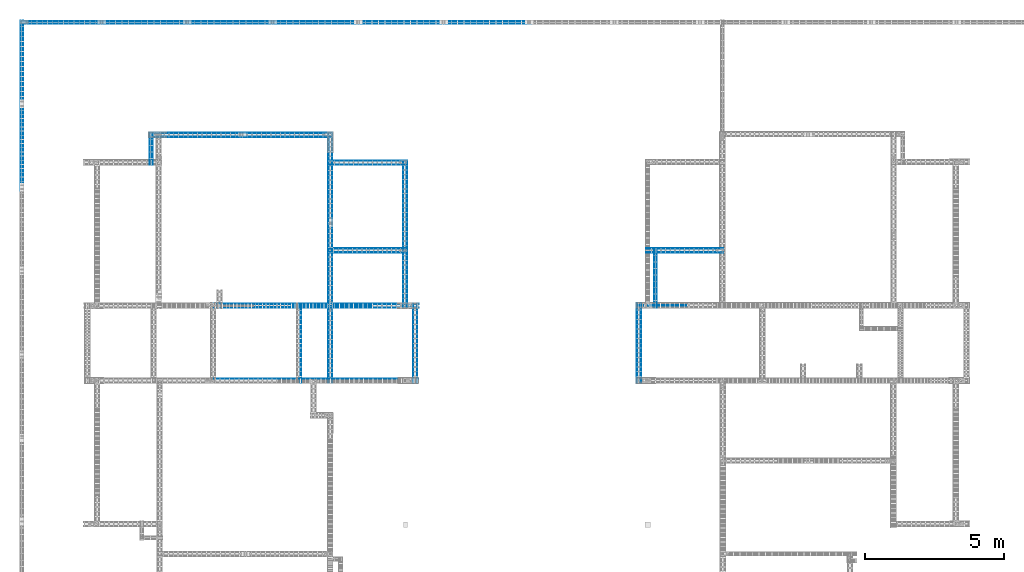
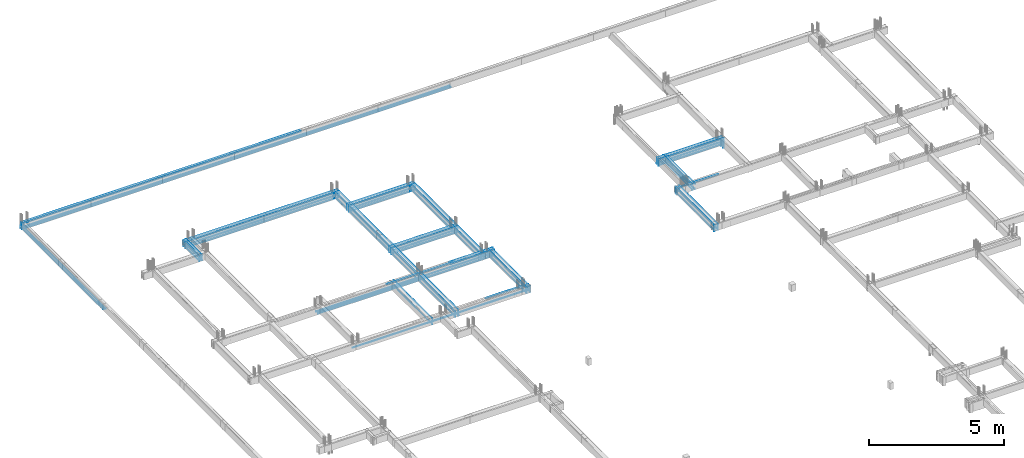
# One storey, part 14 of 150: 60 reinforcing bars.
"""IFC4 building model written with IfcOpenShell, lengths in centimetres."""

from ifc_helpers import new_model, entity, si_unit, derived_unit, frame, origin_with_axes, place, context, project, spatial, element, save


model = new_model("IFC4")

# Units and contexts
model_context = context("Model", 3, precision=1e-05, world=origin_with_axes(), identifier="Body")
ifc_project = project(units=[si_unit("LENGTHUNIT", "METRE", prefix="CENTI"), si_unit("VOLUMEUNIT", "CUBIC_METRE"), si_unit("AREAUNIT", "SQUARE_METRE"), si_unit("POWERUNIT", "WATT"), si_unit("LUMINOUSFLUXUNIT", "LUMEN"), si_unit("ELECTRICCURRENTUNIT", "AMPERE"), si_unit("PRESSUREUNIT", "PASCAL", prefix="KILO"), si_unit("MASSUNIT", "GRAM", prefix="KILO"), si_unit("PLANEANGLEUNIT", "RADIAN"), derived_unit("VOLUMETRICFLOWRATEUNIT", [(si_unit("LENGTHUNIT", "METRE"), 3), (si_unit("TIMEUNIT", "SECOND"), -1)])], contexts=[model_context])

# Site, building, storey
site_placement = place(None, frame((-4000.0, 0.0, 0.0), z_axis=(0.0, 0.0, 1.0), x_axis=(1.0, 0.0, 0.0)))
site = spatial("IfcSite", under=ifc_project, at=site_placement, Name="PADRÃO")
building_placement = place(site_placement, frame((0.0, 0.0, -14.0)))
building = spatial("IfcBuilding", under=site, at=building_placement, Name="CRECHE PRÉ-ESCOLA TIPO 2")
placement = place(building_placement, origin_with_axes())
storey_placement = place(placement, frame((0.0, 0.0, 30.0), z_axis=(0.0, 0.0, 1.0), x_axis=(1.0, 0.0, 0.0)))
storey = spatial("IfcBuildingStorey", under=building, at=storey_placement, Name="VIGA BALDRAME", CompositionType="ELEMENT", Elevation=16.0)

# Reinforcing bars
reinforcing_bar_1_placement = place(storey_placement, frame((1369.5, 4481.9, -26.7), z_axis=(0.0, 0.0, 1.0), x_axis=(1.0, 0.0, 0.0)))
element("IfcReinforcingBar", 1, at=reinforcing_bar_1_placement, inside=storey, Name="V101 - Longitudinal inferior", BarLength=0.0, CrossSectionArea=5.0265482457e-05, NominalDiameter=0.8, PredefinedType="MAIN", context=model_context, shape_type="AdvancedSweptSolid", body=[
    entity("IfcSweptDiskSolid", entity("IfcCompositeCurve", [entity("IfcCompositeCurveSegment", "CONTINUOUS", True, entity("IfcPolyline", [entity("IfcCartesianPoint", [-465.5, 0.0, -0.4]), entity("IfcCartesianPoint", [465.5, 0.0, -0.4])]))], False), 0.4),
])
for number, where, z_axis, x_axis, name in (
    (2, (458.75, 4491.1, -26.7), (0.0, 0.0, 1.0), (1.0, 0.0, 0.0), "V101 - Longitudinal inferior"),
    (3, (458.75, 4481.9, -26.7), (0.0, 0.0, 1.0), (1.0, 0.0, 0.0), "V101 - Longitudinal inferior"),
):
    element("IfcReinforcingBar", number, at=place(storey_placement, frame(where, z_axis=z_axis, x_axis=x_axis)), inside=storey, Name=name, BarLength=0.0, CrossSectionArea=5.0265482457e-05, NominalDiameter=0.8, PredefinedType="MAIN", context=model_context, shape_type="AdvancedSweptSolid", body=[
        entity("IfcSweptDiskSolid", entity("IfcCompositeCurve", [entity("IfcCompositeCurveSegment", "CONTINUOUS", True, entity("IfcPolyline", [entity("IfcCartesianPoint", [-455.25, 0.0, -0.4]), entity("IfcCartesianPoint", [455.25, 0.0, -0.4])]))], False), 0.4),
    ])
reinforcing_bar_2_placement = place(storey_placement, frame((1369.5, 4491.1, -26.7), z_axis=(0.0, 0.0, 1.0), x_axis=(1.0, 0.0, 0.0)))
element("IfcReinforcingBar", 4, at=reinforcing_bar_2_placement, inside=storey, Name="V101 - Longitudinal inferior", BarLength=0.0, CrossSectionArea=5.0265482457e-05, NominalDiameter=0.8, PredefinedType="MAIN", context=model_context, shape_type="AdvancedSweptSolid", body=[
    entity("IfcSweptDiskSolid", entity("IfcCompositeCurve", [entity("IfcCompositeCurveSegment", "CONTINUOUS", True, entity("IfcPolyline", [entity("IfcCartesianPoint", [-465.5, 0.0, -0.4]), entity("IfcCartesianPoint", [465.5, 0.0, -0.4])]))], False), 0.4),
])
for number, where, z_axis, x_axis, name in (
    (5, (598.4981248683, 4481.9, -2.49624973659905), (0.0, 0.0, 1.0), (1.0, 0.0, 0.0), "V101 - Longitudinal superior"),
    (6, (598.4981248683, 4491.1, -2.49624973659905), (0.0, 0.0, 1.0), (1.0, 0.0, 0.0), "V101 - Longitudinal superior"),
):
    element("IfcReinforcingBar", number, at=place(storey_placement, frame(where, z_axis=z_axis, x_axis=x_axis)), inside=storey, Name=name, BarLength=0.0, CrossSectionArea=5.0265482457e-05, NominalDiameter=0.8, PredefinedType="MAIN", context=model_context, shape_type="AdvancedSweptSolid", body=[
        entity("IfcSweptDiskSolid", entity("IfcCompositeCurve", [entity("IfcCompositeCurveSegment", "CONTINUOUS", True, entity("IfcPolyline", [entity("IfcCartesianPoint", [-594.5981248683, 0.0, -10.403750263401]), entity("IfcCartesianPoint", [-594.5981248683, 0.0, -0.403750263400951])])), entity("IfcCompositeCurveSegment", "CONTINUOUS", True, entity("IfcPolyline", [entity("IfcCartesianPoint", [-594.5981248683, 0.0, -0.403750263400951]), entity("IfcCartesianPoint", [595.0018751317, 0.0, -0.403750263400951])]))], False), 0.4),
    ])
for number, where, z_axis, x_axis, name in (
    (7, (795.0181248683, 4089.59, -3.2095935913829), (0.0, 0.0, 1.0), (1.0, 0.0, 0.0), "V102 - Longitudinal inferior"),
    (8, (795.0181248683, 4075.39, -3.2095935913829), (0.0, 0.0, 1.0), (1.0, 0.0, 0.0), "V102 - Longitudinal inferior"),
):
    element("IfcReinforcingBar", number, at=place(storey_placement, frame(where, z_axis=z_axis, x_axis=x_axis)), inside=storey, Name=name, BarLength=0.0, CrossSectionArea=5.0265482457e-05, NominalDiameter=0.8, PredefinedType="MAIN", context=model_context, shape_type="AdvancedSweptSolid", body=[
        entity("IfcSweptDiskSolid", entity("IfcCompositeCurve", [entity("IfcCompositeCurveSegment", "CONTINUOUS", True, entity("IfcPolyline", [entity("IfcCartesianPoint", [-327.6181248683, 0.0, 0.0]), entity("IfcCartesianPoint", [-327.6181248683, 0.0, -23.8904064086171])])), entity("IfcCompositeCurveSegment", "CONTINUOUS", True, entity("IfcPolyline", [entity("IfcCartesianPoint", [-327.6181248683, 0.0, -23.8904064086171]), entity("IfcCartesianPoint", [328.0218751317, 0.0, -23.8904064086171])]))], False), 0.4),
    ])
for number, where, z_axis, x_axis, name in (
    (9, (795.02, 4089.49, -2.49531217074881), (0.0, 0.0, 1.0), (1.0, 0.0, 0.0), "V102 - Longitudinal superior"),
    (10, (795.02, 4075.49, -2.49531217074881), (0.0, 0.0, 1.0), (1.0, 0.0, 0.0), "V102 - Longitudinal superior"),
):
    element("IfcReinforcingBar", number, at=place(storey_placement, frame(where, z_axis=z_axis, x_axis=x_axis)), inside=storey, Name=name, BarLength=0.0, CrossSectionArea=7.853981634e-05, NominalDiameter=1.0, PredefinedType="MAIN", context=model_context, shape_type="AdvancedSweptSolid", body=[
        entity("IfcSweptDiskSolid", entity("IfcCompositeCurve", [entity("IfcCompositeCurveSegment", "CONTINUOUS", True, entity("IfcPolyline", [entity("IfcCartesianPoint", [-327.52, 0.0, -26.5046878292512]), entity("IfcCartesianPoint", [-327.52, 0.0, -0.504687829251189])])), entity("IfcCompositeCurveSegment", "CONTINUOUS", True, entity("IfcPolyline", [entity("IfcCartesianPoint", [-327.52, 0.0, -0.504687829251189]), entity("IfcCartesianPoint", [327.52, 0.0, -0.504687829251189])])), entity("IfcCompositeCurveSegment", "CONTINUOUS", True, entity("IfcPolyline", [entity("IfcCartesianPoint", [327.52, 0.0, -0.504687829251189]), entity("IfcCartesianPoint", [327.52, 0.0, -10.5046878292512])]))], False), 0.5),
    ])
for number, where, z_axis, x_axis, name in (
    (11, (1248.92, 3989.6, -26.7), (0.0, 0.0, 1.0), (1.0, 0.0, 0.0), "V105 - Longitudinal inferior"),
    (12, (1248.92, 3975.4, -26.7), (0.0, 0.0, 1.0), (1.0, 0.0, 0.0), "V105 - Longitudinal inferior"),
):
    element("IfcReinforcingBar", number, at=place(storey_placement, frame(where, z_axis=z_axis, x_axis=x_axis)), inside=storey, Name=name, BarLength=0.0, CrossSectionArea=5.0265482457e-05, NominalDiameter=0.8, PredefinedType="MAIN", context=model_context, shape_type="AdvancedSweptSolid", body=[
        entity("IfcSweptDiskSolid", entity("IfcCompositeCurve", [entity("IfcCompositeCurveSegment", "CONTINUOUS", True, entity("IfcPolyline", [entity("IfcCartesianPoint", [-140.92, 0.0, -0.4]), entity("IfcCartesianPoint", [140.92, 0.0, -0.4])]))], False), 0.4),
    ])
for number, where, z_axis, x_axis, name in (
    (13, (1248.92, 3989.6, -2.49624973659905), (0.0, 0.0, 1.0), (1.0, 0.0, 0.0), "V105 - Longitudinal superior"),
    (14, (1248.92, 3975.4, -2.49624973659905), (0.0, 0.0, 1.0), (1.0, 0.0, 0.0), "V105 - Longitudinal superior"),
):
    element("IfcReinforcingBar", number, at=place(storey_placement, frame(where, z_axis=z_axis, x_axis=x_axis)), inside=storey, Name=name, BarLength=0.0, CrossSectionArea=5.0265482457e-05, NominalDiameter=0.8, PredefinedType="MAIN", context=model_context, shape_type="AdvancedSweptSolid", body=[
        entity("IfcSweptDiskSolid", entity("IfcCompositeCurve", [entity("IfcCompositeCurveSegment", "CONTINUOUS", True, entity("IfcPolyline", [entity("IfcCartesianPoint", [-140.52, 0.0, -26.403750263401]), entity("IfcCartesianPoint", [-140.52, 0.0, -0.403750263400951])])), entity("IfcCompositeCurveSegment", "CONTINUOUS", True, entity("IfcPolyline", [entity("IfcCartesianPoint", [-140.52, 0.0, -0.403750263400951]), entity("IfcCartesianPoint", [140.52, 0.0, -0.403750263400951])])), entity("IfcCompositeCurveSegment", "CONTINUOUS", True, entity("IfcPolyline", [entity("IfcCartesianPoint", [140.52, 0.0, -0.403750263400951]), entity("IfcCartesianPoint", [140.52, 0.0, -10.403750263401])]))], False), 0.4),
    ])
for number, where, z_axis, x_axis, name in (
    (15, (1248.92, 3660.47, -26.7), (0.0, 0.0, 1.0), (1.0, 0.0, 0.0), "V108 - Longitudinal inferior"),
    (16, (1248.92, 3674.67, -26.7), (0.0, 0.0, 1.0), (1.0, 0.0, 0.0), "V108 - Longitudinal inferior"),
):
    element("IfcReinforcingBar", number, at=place(storey_placement, frame(where, z_axis=z_axis, x_axis=x_axis)), inside=storey, Name=name, BarLength=0.0, CrossSectionArea=5.0265482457e-05, NominalDiameter=0.8, PredefinedType="MAIN", context=model_context, shape_type="AdvancedSweptSolid", body=[
        entity("IfcSweptDiskSolid", entity("IfcCompositeCurve", [entity("IfcCompositeCurveSegment", "CONTINUOUS", True, entity("IfcPolyline", [entity("IfcCartesianPoint", [-140.92, 0.0, -0.4]), entity("IfcCartesianPoint", [140.92, 0.0, -0.4])]))], False), 0.4),
    ])
for number, where, z_axis, x_axis, name in (
    (17, (1248.92, 3674.67, -2.49624973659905), (0.0, 0.0, 1.0), (1.0, 0.0, 0.0), "V108 - Longitudinal superior"),
    (18, (1248.92, 3660.47, -2.49624973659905), (0.0, 0.0, 1.0), (1.0, 0.0, 0.0), "V108 - Longitudinal superior"),
):
    element("IfcReinforcingBar", number, at=place(storey_placement, frame(where, z_axis=z_axis, x_axis=x_axis)), inside=storey, Name=name, BarLength=0.0, CrossSectionArea=5.0265482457e-05, NominalDiameter=0.8, PredefinedType="MAIN", context=model_context, shape_type="AdvancedSweptSolid", body=[
        entity("IfcSweptDiskSolid", entity("IfcCompositeCurve", [entity("IfcCompositeCurveSegment", "CONTINUOUS", True, entity("IfcPolyline", [entity("IfcCartesianPoint", [-140.52, 0.0, -26.403750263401]), entity("IfcCartesianPoint", [-140.52, 0.0, -0.403750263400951])])), entity("IfcCompositeCurveSegment", "CONTINUOUS", True, entity("IfcPolyline", [entity("IfcCartesianPoint", [-140.52, 0.0, -0.403750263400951]), entity("IfcCartesianPoint", [140.52, 0.0, -0.403750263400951])])), entity("IfcCompositeCurveSegment", "CONTINUOUS", True, entity("IfcPolyline", [entity("IfcCartesianPoint", [140.52, 0.0, -0.403750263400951]), entity("IfcCartesianPoint", [140.52, 0.0, -10.403750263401])]))], False), 0.4),
    ])
for number, where, z_axis, x_axis, name in (
    (19, (2389.12911844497, 3674.83982156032, -26.7), (0.0, 0.0, 1.0), (1.0, 0.0, 0.0), "V109 - Longitudinal inferior"),
    (20, (2389.1308073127, 3660.63982166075, -26.7), (0.0, 0.0, 1.0), (1.0, 0.0, 0.0), "V109 - Longitudinal inferior"),
):
    element("IfcReinforcingBar", number, at=place(storey_placement, frame(where, z_axis=z_axis, x_axis=x_axis)), inside=storey, Name=name, BarLength=0.0, CrossSectionArea=5.0265482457e-05, NominalDiameter=0.8, PredefinedType="MAIN", context=model_context, shape_type="AdvancedSweptSolid", body=[
        entity("IfcSweptDiskSolid", entity("IfcCompositeCurve", [entity("IfcCompositeCurveSegment", "CONTINUOUS", True, entity("IfcPolyline", [entity("IfcCartesianPoint", [-138.369971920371, -0.012760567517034, -0.4]), entity("IfcCartesianPoint", [138.370045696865, 0.01276056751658, -0.4])]))], False), 0.4),
    ])
for number, where, z_axis, x_axis, name in (
    (21, (2389.12918209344, 3674.61482156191, -2.49414021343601), (0.0, 0.0, 1.0), (1.0, 0.0, 0.0), "V109 - Longitudinal superior"),
    (22, (2389.13081744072, 3660.86482165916, -2.49414021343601), (0.0, 0.0, 1.0), (1.0, 0.0, 0.0), "V109 - Longitudinal superior"),
):
    element("IfcReinforcingBar", number, at=place(storey_placement, frame(where, z_axis=z_axis, x_axis=x_axis)), inside=storey, Name=name, BarLength=0.0, CrossSectionArea=0.000122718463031, NominalDiameter=1.25, PredefinedType="MAIN", context=model_context, shape_type="AdvancedSweptSolid", body=[
        entity("IfcSweptDiskSolid", entity("IfcCompositeCurve", [entity("IfcCompositeCurveSegment", "CONTINUOUS", True, entity("IfcPolyline", [entity("IfcCartesianPoint", [-137.745008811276, -0.012702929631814, -26.630859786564]), entity("IfcCartesianPoint", [-137.745008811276, -0.012702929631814, -0.630859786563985])])), entity("IfcCompositeCurveSegment", "CONTINUOUS", True, entity("IfcPolyline", [entity("IfcCartesianPoint", [-137.745008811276, -0.012702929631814, -0.630859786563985]), entity("IfcCartesianPoint", [137.745008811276, 0.012702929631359, -0.630859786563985])])), entity("IfcCompositeCurveSegment", "CONTINUOUS", True, entity("IfcPolyline", [entity("IfcCartesianPoint", [137.745008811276, 0.012702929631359, -0.630859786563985]), entity("IfcCartesianPoint", [137.745008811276, 0.012702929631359, -42.3274849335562])]))], False), 0.625),
    ])
for number, where, z_axis, x_axis, name in (
    (23, (905.86, 3462.3, -25.9), (0.0, 0.0, 1.0), (1.0, 0.0, 0.0), "V110 - Longitudinal inferior"),
    (24, (905.86, 3475.7, -25.9), (0.0, 0.0, 1.0), (1.0, 0.0, 0.0), "V110 - Longitudinal inferior"),
):
    element("IfcReinforcingBar", number, at=place(storey_placement, frame(where, z_axis=z_axis, x_axis=x_axis)), inside=storey, Name=name, BarLength=0.0, CrossSectionArea=0.00020106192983, NominalDiameter=1.6, PredefinedType="MAIN", context=model_context, shape_type="AdvancedSweptSolid", body=[
        entity("IfcSweptDiskSolid", entity("IfcCompositeCurve", [entity("IfcCompositeCurveSegment", "CONTINUOUS", True, entity("IfcPolyline", [entity("IfcCartesianPoint", [-225.86, 0.0, -0.8]), entity("IfcCartesianPoint", [225.86, 0.0, -0.8])]))], False), 0.8),
    ])
for number, where, z_axis, x_axis, name in (
    (25, (1267.3768751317, 3476.1, -3.2095935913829), (0.0, 0.0, 1.0), (1.0, 0.0, 0.0), "V110 - Longitudinal inferior"),
    (26, (1267.3768751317, 3461.9, -3.2095935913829), (0.0, 0.0, 1.0), (1.0, 0.0, 0.0), "V110 - Longitudinal inferior"),
):
    element("IfcReinforcingBar", number, at=place(storey_placement, frame(where, z_axis=z_axis, x_axis=x_axis)), inside=storey, Name=name, BarLength=0.0, CrossSectionArea=5.0265482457e-05, NominalDiameter=0.8, PredefinedType="MAIN", context=model_context, shape_type="AdvancedSweptSolid", body=[
        entity("IfcSweptDiskSolid", entity("IfcCompositeCurve", [entity("IfcCompositeCurveSegment", "CONTINUOUS", True, entity("IfcPolyline", [entity("IfcCartesianPoint", [-161.6568751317, 0.0, -23.8904064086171]), entity("IfcCartesianPoint", [161.253124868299, 0.0, -23.8904064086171])])), entity("IfcCompositeCurveSegment", "CONTINUOUS", True, entity("IfcPolyline", [entity("IfcCartesianPoint", [161.253124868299, 0.0, -23.8904064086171]), entity("IfcCartesianPoint", [161.253124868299, 0.0, 0.0])]))], False), 0.4),
    ])
for number, where, z_axis, x_axis, name in (
    (27, (1340.76292989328, 3475.875, -2.49414021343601), (0.0, 0.0, 1.0), (1.0, 0.0, 0.0), "V110 - Longitudinal superior"),
    (28, (1340.76292989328, 3462.125, -2.49414021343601), (0.0, 0.0, 1.0), (1.0, 0.0, 0.0), "V110 - Longitudinal superior"),
):
    element("IfcReinforcingBar", number, at=place(storey_placement, frame(where, z_axis=z_axis, x_axis=x_axis)), inside=storey, Name=name, BarLength=0.0, CrossSectionArea=0.000122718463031, NominalDiameter=1.25, PredefinedType="MAIN", context=model_context, shape_type="AdvancedSweptSolid", body=[
        entity("IfcSweptDiskSolid", entity("IfcCompositeCurve", [entity("IfcCompositeCurveSegment", "CONTINUOUS", True, entity("IfcPolyline", [entity("IfcCartesianPoint", [-92.0029298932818, 0.0, -0.630859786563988]), entity("IfcCartesianPoint", [91.372070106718, 0.0, -0.630859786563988])])), entity("IfcCompositeCurveSegment", "CONTINUOUS", True, entity("IfcPolyline", [entity("IfcCartesianPoint", [91.372070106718, 0.0, -0.630859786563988]), entity("IfcCartesianPoint", [91.372070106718, 0.0, -26.630859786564])]))], False), 0.625),
    ])
reinforcing_bar_3_placement = place(storey_placement, frame((1119.95, 3469.0, -2.5), z_axis=(0.0, 0.0, 1.0), x_axis=(1.0, 0.0, 0.0)))
element("IfcReinforcingBar", 29, at=reinforcing_bar_3_placement, inside=storey, Name="V110 - Longitudinal superior", BarLength=0.0, CrossSectionArea=0.000122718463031, NominalDiameter=1.25, PredefinedType="MAIN", context=model_context, shape_type="AdvancedSweptSolid", body=[
    entity("IfcSweptDiskSolid", entity("IfcCompositeCurve", [entity("IfcCompositeCurveSegment", "CONTINUOUS", True, entity("IfcPolyline", [entity("IfcCartesianPoint", [-142.5, 0.0, -0.625]), entity("IfcCartesianPoint", [142.5, 0.0, -0.625])]))], False), 0.625),
])
reinforcing_bar_4_placement = place(storey_placement, frame((2305.52707010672, 3470.02, -2.49414021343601), z_axis=(0.0, 0.0, 1.0), x_axis=(1.0, 0.0, 0.0)))
element("IfcReinforcingBar", 30, at=reinforcing_bar_4_placement, inside=storey, Name="V111 - Longitudinal superior", BarLength=0.0, CrossSectionArea=0.000122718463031, NominalDiameter=1.25, PredefinedType="MAIN", context=model_context, shape_type="AdvancedSweptSolid", body=[
    entity("IfcSweptDiskSolid", entity("IfcCompositeCurve", [entity("IfcCompositeCurveSegment", "CONTINUOUS", True, entity("IfcPolyline", [entity("IfcCartesianPoint", [-88.3720701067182, 0.0, -26.630859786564]), entity("IfcCartesianPoint", [-88.3720701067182, 0.0, -0.630859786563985])])), entity("IfcCompositeCurveSegment", "CONTINUOUS", True, entity("IfcPolyline", [entity("IfcCartesianPoint", [-88.3720701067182, 0.0, -0.630859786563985]), entity("IfcCartesianPoint", [89.0029298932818, 0.0, -0.630859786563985])]))], False), 0.625),
])
reinforcing_bar_5_placement = place(storey_placement, frame((1054.51734391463, 3207.02, -4.15402858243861), z_axis=(0.0, 0.0, 1.0), x_axis=(1.0, 0.0, 0.0)))
element("IfcReinforcingBar", 31, at=reinforcing_bar_5_placement, inside=storey, Name="V113 - Longitudinal inferior", BarLength=0.0, CrossSectionArea=7.853981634e-05, NominalDiameter=1.0, PredefinedType="MAIN", context=model_context, shape_type="AdvancedSweptSolid", body=[
    entity("IfcSweptDiskSolid", entity("IfcCompositeCurve", [entity("IfcCompositeCurveSegment", "CONTINUOUS", True, entity("IfcPolyline", [entity("IfcCartesianPoint", [-374.517343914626, 0.0, -22.8459714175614]), entity("IfcCartesianPoint", [374.012656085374, 0.0, -22.8459714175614])])), entity("IfcCompositeCurveSegment", "CONTINUOUS", True, entity("IfcPolyline", [entity("IfcCartesianPoint", [374.012656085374, 0.0, -22.8459714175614]), entity("IfcCartesianPoint", [374.012656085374, 0.0, 0.0])]))], False), 0.5),
])
reinforcing_bar_6_placement = place(storey_placement, frame((1339.27234391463, 3207.02, -2.49531217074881), z_axis=(0.0, 0.0, 1.0), x_axis=(1.0, 0.0, 0.0)))
element("IfcReinforcingBar", 32, at=reinforcing_bar_6_placement, inside=storey, Name="V113 - Longitudinal superior", BarLength=0.0, CrossSectionArea=7.853981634e-05, NominalDiameter=1.0, PredefinedType="MAIN", context=model_context, shape_type="AdvancedSweptSolid", body=[
    entity("IfcSweptDiskSolid", entity("IfcCompositeCurve", [entity("IfcCompositeCurveSegment", "CONTINUOUS", True, entity("IfcPolyline", [entity("IfcCartesianPoint", [-91.5023439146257, 0.0, -0.504687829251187]), entity("IfcCartesianPoint", [90.9976560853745, 0.0, -0.504687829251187])])), entity("IfcCompositeCurveSegment", "CONTINUOUS", True, entity("IfcPolyline", [entity("IfcCartesianPoint", [90.9976560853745, 0.0, -0.504687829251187]), entity("IfcCartesianPoint", [90.9976560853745, 0.0, -26.5046878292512])]))], False), 0.5),
])
for number, where, z_axis, x_axis, name in (
    (33, (4.4, 4188.15895508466, -17.1), (0.0, 0.0, 1.0), (1.0, 0.0, 0.0), "V159 - Longitudinal inferior"),
    (34, (13.6, 4188.15895508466, -17.1), (0.0, 0.0, 1.0), (1.0, 0.0, 0.0), "V159 - Longitudinal inferior"),
):
    element("IfcReinforcingBar", number, at=place(storey_placement, frame(where, z_axis=z_axis, x_axis=x_axis)), inside=storey, Name=name, BarLength=0.0, CrossSectionArea=5.0265482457e-05, NominalDiameter=0.8, PredefinedType="MAIN", context=model_context, shape_type="AdvancedSweptSolid", body=[
        entity("IfcSweptDiskSolid", entity("IfcCompositeCurve", [entity("IfcCompositeCurveSegment", "CONTINUOUS", True, entity("IfcPolyline", [entity("IfcCartesianPoint", [0.0, -305.344795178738, -10.0]), entity("IfcCartesianPoint", [0.0, 304.941044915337, -10.0])])), entity("IfcCompositeCurveSegment", "CONTINUOUS", True, entity("IfcPolyline", [entity("IfcCartesianPoint", [0.0, 304.941044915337, -10.0]), entity("IfcCartesianPoint", [0.0, 304.941044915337, 0.0])]))], False), 0.4),
    ])
for number, where, z_axis, x_axis, name in (
    (35, (467.9, 4033.12, -26.7), (0.0, 0.0, 1.0), (1.0, 0.0, 0.0), "V174 - Longitudinal inferior"),
    (36, (477.1, 4033.12, -26.7), (0.0, 0.0, 1.0), (1.0, 0.0, 0.0), "V174 - Longitudinal inferior"),
):
    element("IfcReinforcingBar", number, at=place(storey_placement, frame(where, z_axis=z_axis, x_axis=x_axis)), inside=storey, Name=name, BarLength=0.0, CrossSectionArea=5.0265482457e-05, NominalDiameter=0.8, PredefinedType="MAIN", context=model_context, shape_type="AdvancedSweptSolid", body=[
        entity("IfcSweptDiskSolid", entity("IfcCompositeCurve", [entity("IfcCompositeCurveSegment", "CONTINUOUS", True, entity("IfcPolyline", [entity("IfcCartesianPoint", [0.0, -57.37, -0.4]), entity("IfcCartesianPoint", [0.0, 57.37, -0.4])]))], False), 0.4),
    ])
for number, where, z_axis, x_axis, name in (
    (37, (467.9, 4033.12, -2.49624973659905), (0.0, 0.0, 1.0), (1.0, 0.0, 0.0), "V174 - Longitudinal superior"),
    (38, (477.1, 4033.12, -2.49624973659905), (0.0, 0.0, 1.0), (1.0, 0.0, 0.0), "V174 - Longitudinal superior"),
):
    element("IfcReinforcingBar", number, at=place(storey_placement, frame(where, z_axis=z_axis, x_axis=x_axis)), inside=storey, Name=name, BarLength=0.0, CrossSectionArea=5.0265482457e-05, NominalDiameter=0.8, PredefinedType="MAIN", context=model_context, shape_type="AdvancedSweptSolid", body=[
        entity("IfcSweptDiskSolid", entity("IfcCompositeCurve", [entity("IfcCompositeCurveSegment", "CONTINUOUS", True, entity("IfcPolyline", [entity("IfcCartesianPoint", [0.0, -56.97, -18.3215550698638]), entity("IfcCartesianPoint", [0.0, -56.97, -0.403750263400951])])), entity("IfcCompositeCurveSegment", "CONTINUOUS", True, entity("IfcPolyline", [entity("IfcCartesianPoint", [0.0, -56.97, -0.403750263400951]), entity("IfcCartesianPoint", [0.0, 56.97, -0.403750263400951])])), entity("IfcCompositeCurveSegment", "CONTINUOUS", True, entity("IfcPolyline", [entity("IfcCartesianPoint", [0.0, 56.97, -0.403750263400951]), entity("IfcCartesianPoint", [0.0, 56.97, -18.3215550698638])]))], False), 0.4),
    ])
reinforcing_bar_7_placement = place(storey_placement, frame((1010.98, 3334.51, -2.5), z_axis=(0.0, 0.0, 1.0), x_axis=(1.0, 0.0, 0.0)))
element("IfcReinforcingBar", 39, at=reinforcing_bar_7_placement, inside=storey, Name="V179 - Longitudinal construtiva", BarLength=0.0, CrossSectionArea=1.9634954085e-05, NominalDiameter=0.5, PredefinedType="MAIN", context=model_context, shape_type="AdvancedSweptSolid", body=[
    entity("IfcSweptDiskSolid", entity("IfcCompositeCurve", [entity("IfcCompositeCurveSegment", "CONTINUOUS", True, entity("IfcPolyline", [entity("IfcCartesianPoint", [0.0, -142.49, -0.25]), entity("IfcCartesianPoint", [0.0, 142.49, -0.25])]))], False), 0.25),
])
reinforcing_bar_8_placement = place(storey_placement, frame((1010.73, 3334.51, -26.5), z_axis=(0.0, 0.0, 1.0), x_axis=(1.0, 0.0, 0.0)))
element("IfcReinforcingBar", 40, at=reinforcing_bar_8_placement, inside=storey, Name="V179 - Longitudinal inferior", BarLength=0.0, CrossSectionArea=7.853981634e-05, NominalDiameter=1.0, PredefinedType="MAIN", context=model_context, shape_type="AdvancedSweptSolid", body=[
    entity("IfcSweptDiskSolid", entity("IfcCompositeCurve", [entity("IfcCompositeCurveSegment", "CONTINUOUS", True, entity("IfcPolyline", [entity("IfcCartesianPoint", [0.0, -142.49, -0.5]), entity("IfcCartesianPoint", [0.0, 142.49, -0.5])]))], False), 0.5),
])
for number, where, z_axis, x_axis, name in (
    (41, (1122.875, 3641.01292989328, -11.875), (0.0, 0.0, 1.0), (1.0, 0.0, 0.0), "V185 - Longitudinal inferior"),
    (42, (1109.125, 3641.01292989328, -11.875), (0.0, 0.0, 1.0), (1.0, 0.0, 0.0), "V185 - Longitudinal inferior"),
):
    element("IfcReinforcingBar", number, at=place(storey_placement, frame(where, z_axis=z_axis, x_axis=x_axis)), inside=storey, Name=name, BarLength=0.0, CrossSectionArea=0.000122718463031, NominalDiameter=1.25, PredefinedType="MAIN", context=model_context, shape_type="AdvancedSweptSolid", body=[
        entity("IfcSweptDiskSolid", entity("IfcCompositeCurve", [entity("IfcCompositeCurveSegment", "CONTINUOUS", True, entity("IfcPolyline", [entity("IfcCartesianPoint", [0.0, -448.992929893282, -15.0]), entity("IfcCartesianPoint", [0.0, 448.362070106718, -15.0])])), entity("IfcCompositeCurveSegment", "CONTINUOUS", True, entity("IfcPolyline", [entity("IfcCartesianPoint", [0.0, 448.362070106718, -15.0]), entity("IfcCartesianPoint", [0.0, 448.362070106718, 0.0])]))], False), 0.625),
    ])
for number, where, z_axis, x_axis, name in (
    (43, (1109.0, 3641.01, -2.49531217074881), (0.0, 0.0, 1.0), (1.0, 0.0, 0.0), "V185 - Longitudinal superior"),
    (44, (1123.0, 3641.01, -2.49531217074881), (0.0, 0.0, 1.0), (1.0, 0.0, 0.0), "V185 - Longitudinal superior"),
):
    element("IfcReinforcingBar", number, at=place(storey_placement, frame(where, z_axis=z_axis, x_axis=x_axis)), inside=storey, Name=name, BarLength=0.0, CrossSectionArea=7.853981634e-05, NominalDiameter=1.0, PredefinedType="MAIN", context=model_context, shape_type="AdvancedSweptSolid", body=[
        entity("IfcSweptDiskSolid", entity("IfcCompositeCurve", [entity("IfcCompositeCurveSegment", "CONTINUOUS", True, entity("IfcPolyline", [entity("IfcCartesianPoint", [0.0, -448.49, -26.5046878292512]), entity("IfcCartesianPoint", [0.0, -448.49, -0.504687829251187])])), entity("IfcCompositeCurveSegment", "CONTINUOUS", True, entity("IfcPolyline", [entity("IfcCartesianPoint", [0.0, -448.49, -0.504687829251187]), entity("IfcCartesianPoint", [0.0, 448.49, -0.504687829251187])])), entity("IfcCompositeCurveSegment", "CONTINUOUS", True, entity("IfcPolyline", [entity("IfcCartesianPoint", [0.0, 448.49, -0.504687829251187]), entity("IfcCartesianPoint", [0.0, 448.49, -19.6170129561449])]))], False), 0.5),
    ])
for number, where, z_axis, x_axis, name in (
    (45, (1428.03, 3334.51, -26.5), (0.0, 0.0, 1.0), (1.0, 0.0, 0.0), "V187 - Longitudinal inferior"),
    (46, (1414.03, 3334.51, -26.5), (0.0, 0.0, 1.0), (1.0, 0.0, 0.0), "V187 - Longitudinal inferior"),
):
    element("IfcReinforcingBar", number, at=place(storey_placement, frame(where, z_axis=z_axis, x_axis=x_axis)), inside=storey, Name=name, BarLength=0.0, CrossSectionArea=7.853981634e-05, NominalDiameter=1.0, PredefinedType="MAIN", context=model_context, shape_type="AdvancedSweptSolid", body=[
        entity("IfcSweptDiskSolid", entity("IfcCompositeCurve", [entity("IfcCompositeCurveSegment", "CONTINUOUS", True, entity("IfcPolyline", [entity("IfcCartesianPoint", [0.0, -142.49, -0.5]), entity("IfcCartesianPoint", [0.0, 142.49, -0.5])]))], False), 0.5),
    ])
for number, where, z_axis, x_axis, name in (
    (47, (1428.13, 3334.51, -2.49624973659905), (0.0, 0.0, 1.0), (1.0, 0.0, 0.0), "V187 - Longitudinal superior"),
    (48, (1413.93, 3334.51, -2.49624973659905), (0.0, 0.0, 1.0), (1.0, 0.0, 0.0), "V187 - Longitudinal superior"),
):
    element("IfcReinforcingBar", number, at=place(storey_placement, frame(where, z_axis=z_axis, x_axis=x_axis)), inside=storey, Name=name, BarLength=0.0, CrossSectionArea=5.0265482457e-05, NominalDiameter=0.8, PredefinedType="MAIN", context=model_context, shape_type="AdvancedSweptSolid", body=[
        entity("IfcSweptDiskSolid", entity("IfcCompositeCurve", [entity("IfcCompositeCurveSegment", "CONTINUOUS", True, entity("IfcPolyline", [entity("IfcCartesianPoint", [0.0, -142.09, -24.2941566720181]), entity("IfcCartesianPoint", [0.0, -142.09, -0.403750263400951])])), entity("IfcCompositeCurveSegment", "CONTINUOUS", True, entity("IfcPolyline", [entity("IfcCartesianPoint", [0.0, -142.09, -0.403750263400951]), entity("IfcCartesianPoint", [0.0, 142.09, -0.403750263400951])])), entity("IfcCompositeCurveSegment", "CONTINUOUS", True, entity("IfcPolyline", [entity("IfcCartesianPoint", [0.0, 142.09, -0.403750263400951]), entity("IfcCartesianPoint", [0.0, 142.09, -26.403750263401])]))], False), 0.4),
    ])
for number, where, z_axis, x_axis, name in (
    (49, (1391.49, 3726.75765608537, -15.0), (0.0, 0.0, 1.0), (1.0, 0.0, 0.0), "V188 - Longitudinal inferior"),
    (50, (1377.49, 3726.75765608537, -15.0), (0.0, 0.0, 1.0), (1.0, 0.0, 0.0), "V188 - Longitudinal inferior"),
):
    element("IfcReinforcingBar", number, at=place(storey_placement, frame(where, z_axis=z_axis, x_axis=x_axis)), inside=storey, Name=name, BarLength=0.0, CrossSectionArea=7.853981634e-05, NominalDiameter=1.0, PredefinedType="MAIN", context=model_context, shape_type="AdvancedSweptSolid", body=[
        entity("IfcSweptDiskSolid", entity("IfcCompositeCurve", [entity("IfcCompositeCurveSegment", "CONTINUOUS", True, entity("IfcPolyline", [entity("IfcCartesianPoint", [0.0, -262.737656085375, 0.0]), entity("IfcCartesianPoint", [0.0, -262.737656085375, -12.0])])), entity("IfcCompositeCurveSegment", "CONTINUOUS", True, entity("IfcPolyline", [entity("IfcCartesianPoint", [0.0, -262.737656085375, -12.0]), entity("IfcCartesianPoint", [0.0, 263.242343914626, -12.0])]))], False), 0.5),
    ])
for number, where, z_axis, x_axis, name in (
    (51, (1391.59, 3726.76, -2.49624973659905), (0.0, 0.0, 1.0), (1.0, 0.0, 0.0), "V188 - Longitudinal superior"),
    (52, (1377.39, 3726.76, -2.49624973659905), (0.0, 0.0, 1.0), (1.0, 0.0, 0.0), "V188 - Longitudinal superior"),
):
    element("IfcReinforcingBar", number, at=place(storey_placement, frame(where, z_axis=z_axis, x_axis=x_axis)), inside=storey, Name=name, BarLength=0.0, CrossSectionArea=5.0265482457e-05, NominalDiameter=0.8, PredefinedType="MAIN", context=model_context, shape_type="AdvancedSweptSolid", body=[
        entity("IfcSweptDiskSolid", entity("IfcCompositeCurve", [entity("IfcCompositeCurveSegment", "CONTINUOUS", True, entity("IfcPolyline", [entity("IfcCartesianPoint", [0.0, -262.84, -24.2941566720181]), entity("IfcCartesianPoint", [0.0, -262.84, -0.403750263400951])])), entity("IfcCompositeCurveSegment", "CONTINUOUS", True, entity("IfcPolyline", [entity("IfcCartesianPoint", [0.0, -262.84, -0.403750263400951]), entity("IfcCartesianPoint", [0.0, 262.84, -0.403750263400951])])), entity("IfcCompositeCurveSegment", "CONTINUOUS", True, entity("IfcPolyline", [entity("IfcCartesianPoint", [0.0, 262.84, -0.403750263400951]), entity("IfcCartesianPoint", [0.0, 262.84, -24.2941566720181])]))], False), 0.4),
    ])
for number, where, z_axis, x_axis, name in (
    (53, (2217.53, 3335.02, -26.5), (0.0, 0.0, 1.0), (1.0, 0.0, 0.0), "V191 - Longitudinal inferior"),
    (54, (2231.53, 3335.02, -26.5), (0.0, 0.0, 1.0), (1.0, 0.0, 0.0), "V191 - Longitudinal inferior"),
):
    element("IfcReinforcingBar", number, at=place(storey_placement, frame(where, z_axis=z_axis, x_axis=x_axis)), inside=storey, Name=name, BarLength=0.0, CrossSectionArea=7.853981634e-05, NominalDiameter=1.0, PredefinedType="MAIN", context=model_context, shape_type="AdvancedSweptSolid", body=[
        entity("IfcSweptDiskSolid", entity("IfcCompositeCurve", [entity("IfcCompositeCurveSegment", "CONTINUOUS", True, entity("IfcPolyline", [entity("IfcCartesianPoint", [0.0, -143.0, -0.5]), entity("IfcCartesianPoint", [0.0, 143.0, -0.5])]))], False), 0.5),
    ])
for number, where, z_axis, x_axis, name in (
    (55, (2217.43, 3335.02, -2.49624973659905), (0.0, 0.0, 1.0), (1.0, 0.0, 0.0), "V191 - Longitudinal superior"),
    (56, (2231.63, 3335.02, -2.49624973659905), (0.0, 0.0, 1.0), (1.0, 0.0, 0.0), "V191 - Longitudinal superior"),
):
    element("IfcReinforcingBar", number, at=place(storey_placement, frame(where, z_axis=z_axis, x_axis=x_axis)), inside=storey, Name=name, BarLength=0.0, CrossSectionArea=5.0265482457e-05, NominalDiameter=0.8, PredefinedType="MAIN", context=model_context, shape_type="AdvancedSweptSolid", body=[
        entity("IfcSweptDiskSolid", entity("IfcCompositeCurve", [entity("IfcCompositeCurveSegment", "CONTINUOUS", True, entity("IfcPolyline", [entity("IfcCartesianPoint", [0.0, -142.6, -26.403750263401]), entity("IfcCartesianPoint", [0.0, -142.6, -0.403750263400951])])), entity("IfcCompositeCurveSegment", "CONTINUOUS", True, entity("IfcPolyline", [entity("IfcCartesianPoint", [0.0, -142.6, -0.403750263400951]), entity("IfcCartesianPoint", [0.0, 142.6, -0.403750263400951])])), entity("IfcCompositeCurveSegment", "CONTINUOUS", True, entity("IfcPolyline", [entity("IfcCartesianPoint", [0.0, 142.6, -0.403750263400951]), entity("IfcCartesianPoint", [0.0, 142.6, -24.2941566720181])]))], False), 0.4),
    ])
for number, where, z_axis, x_axis, name in (
    (57, (2278.75, 3568.885, -2.5), (0.0, 0.0, 1.0), (1.0, 0.0, 0.0), "V192 - Longitudinal construtiva"),
    (58, (2288.25, 3568.885, -2.5), (0.0, 0.0, 1.0), (1.0, 0.0, 0.0), "V192 - Longitudinal construtiva"),
):
    element("IfcReinforcingBar", number, at=place(storey_placement, frame(where, z_axis=z_axis, x_axis=x_axis)), inside=storey, Name=name, BarLength=0.0, CrossSectionArea=1.9634954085e-05, NominalDiameter=0.5, PredefinedType="MAIN", context=model_context, shape_type="AdvancedSweptSolid", body=[
        entity("IfcSweptDiskSolid", entity("IfcCompositeCurve", [entity("IfcCompositeCurveSegment", "CONTINUOUS", True, entity("IfcPolyline", [entity("IfcCartesianPoint", [0.0, -106.865, -0.25]), entity("IfcCartesianPoint", [0.0, 106.865, -0.25])]))], False), 0.25),
    ])
for number, where, z_axis, x_axis, name in (
    (59, (2288.1, 3568.885, -26.7), (0.0, 0.0, 1.0), (1.0, 0.0, 0.0), "V192 - Longitudinal inferior"),
    (60, (2278.9, 3568.885, -26.7), (0.0, 0.0, 1.0), (1.0, 0.0, 0.0), "V192 - Longitudinal inferior"),
):
    element("IfcReinforcingBar", number, at=place(storey_placement, frame(where, z_axis=z_axis, x_axis=x_axis)), inside=storey, Name=name, BarLength=0.0, CrossSectionArea=5.0265482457e-05, NominalDiameter=0.8, PredefinedType="MAIN", context=model_context, shape_type="AdvancedSweptSolid", body=[
        entity("IfcSweptDiskSolid", entity("IfcCompositeCurve", [entity("IfcCompositeCurveSegment", "CONTINUOUS", True, entity("IfcPolyline", [entity("IfcCartesianPoint", [0.0, -106.865, -0.4]), entity("IfcCartesianPoint", [0.0, 106.865, -0.4])]))], False), 0.4),
    ])

save(model, "model.ifc")
